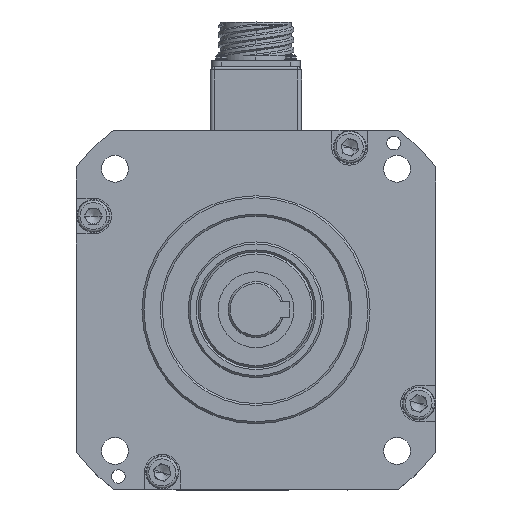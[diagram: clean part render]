
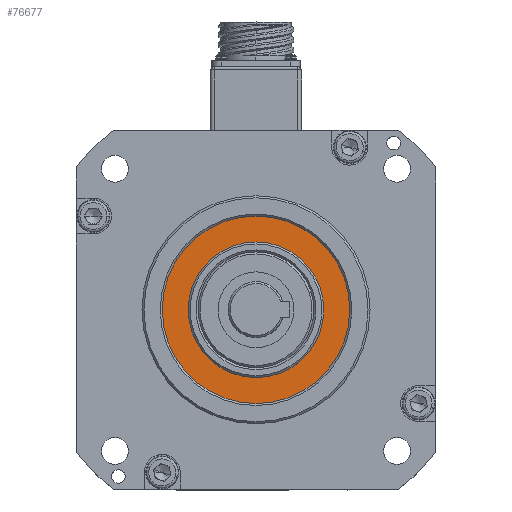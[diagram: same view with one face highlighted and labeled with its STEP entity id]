
A CAD part, top view. The second image highlights one B-rep face of the part: STEP entity #76677.
In plain terms, the highlighted planar face has unit normal (0, 0, 1).
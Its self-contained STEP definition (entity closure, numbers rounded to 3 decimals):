
#958 = ORIENTED_EDGE ( 'NONE', *, *, #55443, .F. ) ;
#1079 = EDGE_LOOP ( 'NONE', ( #94873, #66841 ) ) ;
#1624 = AXIS2_PLACEMENT_3D ( 'NONE', #35908, #90880, #43821 ) ;
#2332 = CARTESIAN_POINT ( 'NONE',  ( 122.505, 62.324, 156.691 ) ) ;
#2708 = VERTEX_POINT ( 'NONE', #10010 ) ;
#5767 = CARTESIAN_POINT ( 'NONE',  ( 122.505, 156.324, 156.691 ) ) ;
#7004 = EDGE_LOOP ( 'NONE', ( #61968, #958 ) ) ;
#10010 = CARTESIAN_POINT ( 'NONE',  ( 122.505, 75.324, 156.691 ) ) ;
#10817 = DIRECTION ( 'NONE',  ( 0., 0., 1. ) ) ;
#14882 = FACE_BOUND ( 'NONE', #7004, .T. ) ;
#18653 = CIRCLE ( 'NONE', #1624, 34. ) ;
#28799 = PLANE ( 'NONE',  #99253 ) ;
#29382 = CIRCLE ( 'NONE', #73220, 47. ) ;
#29732 = CARTESIAN_POINT ( 'NONE',  ( 122.505, 109.324, 156.691 ) ) ;
#31639 = DIRECTION ( 'NONE',  ( 0., 0., 1. ) ) ;
#32060 = CARTESIAN_POINT ( 'NONE',  ( 122.505, 143.324, 156.691 ) ) ;
#32617 = EDGE_CURVE ( 'NONE', #77260, #2708, #41266, .T. ) ;
#33789 = CIRCLE ( 'NONE', #66152, 47. ) ;
#35489 = VERTEX_POINT ( 'NONE', #5767 ) ;
#35908 = CARTESIAN_POINT ( 'NONE',  ( 122.505, 109.324, 156.691 ) ) ;
#36690 = CARTESIAN_POINT ( 'NONE',  ( 122.505, 109.324, 156.691 ) ) ;
#37624 = DIRECTION ( 'NONE',  ( 0., -1., 0. ) ) ;
#41266 = CIRCLE ( 'NONE', #43842, 34. ) ;
#43821 = DIRECTION ( 'NONE',  ( 0., -1., 0. ) ) ;
#43842 = AXIS2_PLACEMENT_3D ( 'NONE', #57759, #10817, #65664 ) ;
#44589 = DIRECTION ( 'NONE',  ( 0., 0., 1. ) ) ;
#55443 = EDGE_CURVE ( 'NONE', #2708, #77260, #18653, .T. ) ;
#57759 = CARTESIAN_POINT ( 'NONE',  ( 122.505, 109.324, 156.691 ) ) ;
#61968 = ORIENTED_EDGE ( 'NONE', *, *, #32617, .F. ) ;
#65664 = DIRECTION ( 'NONE',  ( 0., -1., 0. ) ) ;
#66152 = AXIS2_PLACEMENT_3D ( 'NONE', #78706, #31639, #86568 ) ;
#66841 = ORIENTED_EDGE ( 'NONE', *, *, #69103, .T. ) ;
#69103 = EDGE_CURVE ( 'NONE', #89430, #35489, #29382, .T. ) ;
#72654 = EDGE_CURVE ( 'NONE', #35489, #89430, #33789, .T. ) ;
#73220 = AXIS2_PLACEMENT_3D ( 'NONE', #29732, #84673, #37624 ) ;
#76677 = ADVANCED_FACE ( 'NONE', ( #14882, #98351 ), #28799, .T. ) ;
#77260 = VERTEX_POINT ( 'NONE', #32060 ) ;
#78706 = CARTESIAN_POINT ( 'NONE',  ( 122.505, 109.324, 156.691 ) ) ;
#84673 = DIRECTION ( 'NONE',  ( 0., 0., 1. ) ) ;
#86568 = DIRECTION ( 'NONE',  ( 0., -1., 0. ) ) ;
#89430 = VERTEX_POINT ( 'NONE', #2332 ) ;
#90880 = DIRECTION ( 'NONE',  ( 0., 0., 1. ) ) ;
#94873 = ORIENTED_EDGE ( 'NONE', *, *, #72654, .T. ) ;
#98351 = FACE_OUTER_BOUND ( 'NONE', #1079, .T. ) ;
#99253 = AXIS2_PLACEMENT_3D ( 'NONE', #36690, #44589, #99523 ) ;
#99523 = DIRECTION ( 'NONE',  ( 0., -1., 0. ) ) ;
